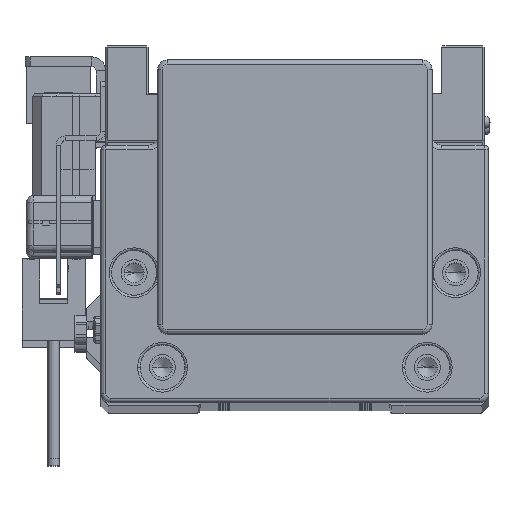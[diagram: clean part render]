
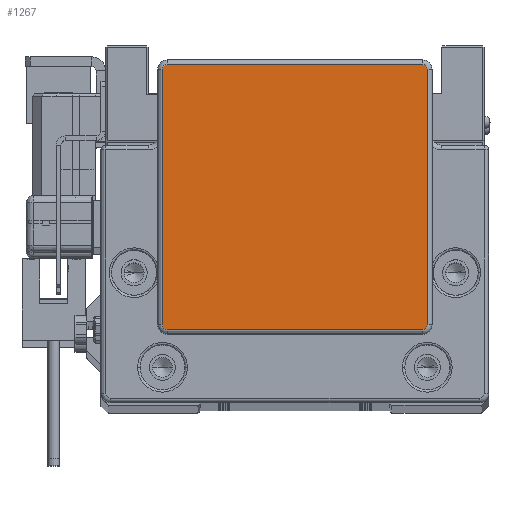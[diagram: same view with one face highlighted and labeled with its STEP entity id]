
A CAD part, top view. The second image highlights one B-rep face of the part: STEP entity #1267.
In plain terms, the highlighted planar face has unit normal (0, 0, 1).
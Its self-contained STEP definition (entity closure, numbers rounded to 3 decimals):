
#1267 = ADVANCED_FACE ( 'NONE', ( #37624 ), #19730, .T. ) ;
#4055 = ORIENTED_EDGE ( 'NONE', *, *, #26120, .T. ) ;
#4757 = LINE ( 'NONE', #10497, #34668 ) ;
#5200 = AXIS2_PLACEMENT_3D ( 'NONE', #26855, #58065, #36232 ) ;
#6568 = VECTOR ( 'NONE', #47208, 1000. ) ;
#6879 = EDGE_CURVE ( 'NONE', #9722, #29233, #59237, .T. ) ;
#6884 = CARTESIAN_POINT ( 'NONE',  ( -27., 34.25, 17. ) ) ;
#7786 = CARTESIAN_POINT ( 'NONE',  ( -28., 34.25, 17. ) ) ;
#7917 = CIRCLE ( 'NONE', #41789, 1. ) ;
#8724 = LINE ( 'NONE', #50237, #42995 ) ;
#8736 = CARTESIAN_POINT ( 'NONE',  ( 28., 34.25, 17. ) ) ;
#9722 = VERTEX_POINT ( 'NONE', #14810 ) ;
#9745 = VERTEX_POINT ( 'NONE', #15414 ) ;
#10497 = CARTESIAN_POINT ( 'NONE',  ( -27., 35.25, 17. ) ) ;
#10760 = EDGE_CURVE ( 'NONE', #17456, #9722, #8724, .T. ) ;
#12492 = CARTESIAN_POINT ( 'NONE',  ( 28., -19.75, 17. ) ) ;
#12502 = VERTEX_POINT ( 'NONE', #8736 ) ;
#12812 = DIRECTION ( 'NONE',  ( 0., 0., 1. ) ) ;
#13453 = DIRECTION ( 'NONE',  ( 0., -1., 0. ) ) ;
#14449 = DIRECTION ( 'NONE',  ( -1., 0., 0. ) ) ;
#14810 = CARTESIAN_POINT ( 'NONE',  ( 27., -20.75, 17. ) ) ;
#15067 = ORIENTED_EDGE ( 'NONE', *, *, #53041, .T. ) ;
#15414 = CARTESIAN_POINT ( 'NONE',  ( -28., -19.75, 17. ) ) ;
#17456 = VERTEX_POINT ( 'NONE', #50090 ) ;
#19730 = PLANE ( 'NONE',  #57509 ) ;
#19886 = AXIS2_PLACEMENT_3D ( 'NONE', #21933, #12812, #49492 ) ;
#21933 = CARTESIAN_POINT ( 'NONE',  ( 27., 34.25, 17. ) ) ;
#26058 = ORIENTED_EDGE ( 'NONE', *, *, #48228, .T. ) ;
#26120 = EDGE_CURVE ( 'NONE', #29233, #12502, #28743, .T. ) ;
#26325 = AXIS2_PLACEMENT_3D ( 'NONE', #30541, #48997, #40497 ) ;
#26855 = CARTESIAN_POINT ( 'NONE',  ( -27., -19.75, 17. ) ) ;
#26931 = VERTEX_POINT ( 'NONE', #41481 ) ;
#28743 = LINE ( 'NONE', #46614, #6568 ) ;
#29233 = VERTEX_POINT ( 'NONE', #12492 ) ;
#29320 = EDGE_LOOP ( 'NONE', ( #31702, #15067, #26058, #53058, #36008, #36462, #4055, #51293 ) ) ;
#29943 = DIRECTION ( 'NONE',  ( 0., 0., 1. ) ) ;
#30541 = CARTESIAN_POINT ( 'NONE',  ( 27., -19.75, 17. ) ) ;
#31702 = ORIENTED_EDGE ( 'NONE', *, *, #40243, .T. ) ;
#31781 = DIRECTION ( 'NONE',  ( 1., 0., 0. ) ) ;
#34292 = CIRCLE ( 'NONE', #5200, 1. ) ;
#34668 = VECTOR ( 'NONE', #14449, 1000. ) ;
#34781 = DIRECTION ( 'NONE',  ( 1., 0., 0. ) ) ;
#36008 = ORIENTED_EDGE ( 'NONE', *, *, #10760, .T. ) ;
#36232 = DIRECTION ( 'NONE',  ( 1., 0., 0. ) ) ;
#36462 = ORIENTED_EDGE ( 'NONE', *, *, #6879, .T. ) ;
#36799 = CARTESIAN_POINT ( 'NONE',  ( -28., -19.75, 17. ) ) ;
#37624 = FACE_OUTER_BOUND ( 'NONE', #29320, .T. ) ;
#37964 = VERTEX_POINT ( 'NONE', #45208 ) ;
#38218 = DIRECTION ( 'NONE',  ( 1., 0., 0. ) ) ;
#39251 = CIRCLE ( 'NONE', #19886, 1. ) ;
#40243 = EDGE_CURVE ( 'NONE', #26931, #37964, #4757, .T. ) ;
#40497 = DIRECTION ( 'NONE',  ( 1., 0., 0. ) ) ;
#40723 = LINE ( 'NONE', #36799, #58946 ) ;
#41481 = CARTESIAN_POINT ( 'NONE',  ( 27., 35.25, 17. ) ) ;
#41789 = AXIS2_PLACEMENT_3D ( 'NONE', #6884, #29943, #34781 ) ;
#42455 = CARTESIAN_POINT ( 'NONE',  ( -27., -19.75, 17. ) ) ;
#42995 = VECTOR ( 'NONE', #31781, 1000. ) ;
#45208 = CARTESIAN_POINT ( 'NONE',  ( -27., 35.25, 17. ) ) ;
#46614 = CARTESIAN_POINT ( 'NONE',  ( 28., 34.25, 17. ) ) ;
#47208 = DIRECTION ( 'NONE',  ( 0., 1., 0. ) ) ;
#47846 = VERTEX_POINT ( 'NONE', #7786 ) ;
#48228 = EDGE_CURVE ( 'NONE', #47846, #9745, #40723, .T. ) ;
#48997 = DIRECTION ( 'NONE',  ( 0., 0., 1. ) ) ;
#49492 = DIRECTION ( 'NONE',  ( 1., 0., 0. ) ) ;
#50090 = CARTESIAN_POINT ( 'NONE',  ( -27., -20.75, 17. ) ) ;
#50237 = CARTESIAN_POINT ( 'NONE',  ( 27., -20.75, 17. ) ) ;
#50942 = DIRECTION ( 'NONE',  ( 0., 0., 1. ) ) ;
#51293 = ORIENTED_EDGE ( 'NONE', *, *, #55960, .T. ) ;
#53041 = EDGE_CURVE ( 'NONE', #37964, #47846, #7917, .T. ) ;
#53058 = ORIENTED_EDGE ( 'NONE', *, *, #54436, .T. ) ;
#54436 = EDGE_CURVE ( 'NONE', #9745, #17456, #34292, .T. ) ;
#55960 = EDGE_CURVE ( 'NONE', #12502, #26931, #39251, .T. ) ;
#57509 = AXIS2_PLACEMENT_3D ( 'NONE', #42455, #50942, #38218 ) ;
#58065 = DIRECTION ( 'NONE',  ( 0., 0., 1. ) ) ;
#58946 = VECTOR ( 'NONE', #13453, 1000. ) ;
#59237 = CIRCLE ( 'NONE', #26325, 1. ) ;
